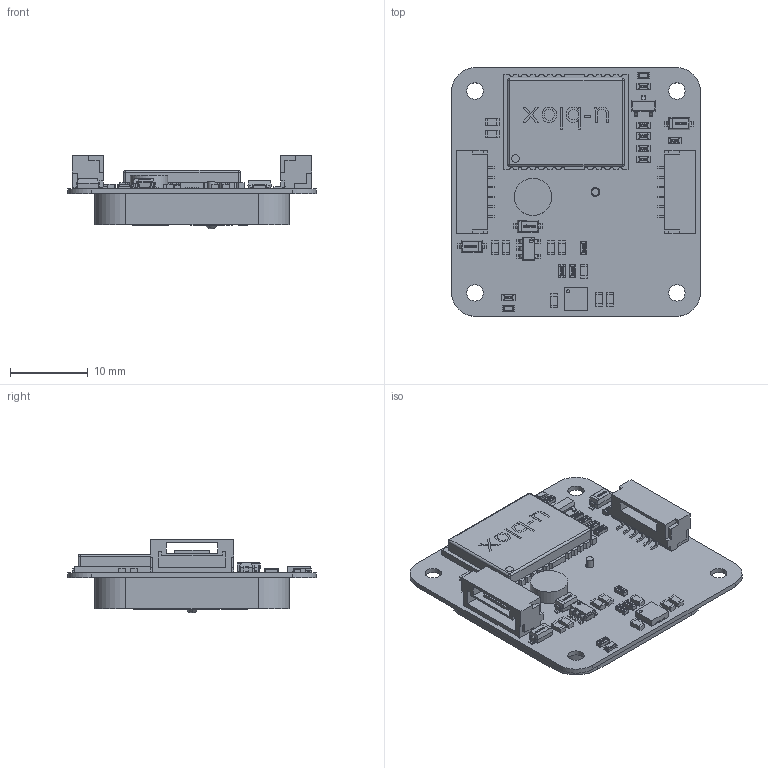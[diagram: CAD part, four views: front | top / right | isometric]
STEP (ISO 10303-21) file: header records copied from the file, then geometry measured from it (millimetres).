
FILE_DESCRIPTION(('Open CASCADE Model'),'2;1');
FILE_NAME('Open CASCADE Shape Model','2020-10-09T22:48:28',('Author'),( 'Open CASCADE'),'Open CASCADE STEP processor 6.8','Open CASCADE 6.8' ,'Unknown');
FILE_SCHEMA(('AUTOMOTIVE_DESIGN { 1 0 10303 214 1 1 1 1 }'));
Length unit declared in the file: millimetre
Products named in the file (78): PCB; Board; Open CASCADE STEP translator 6.8 2.1.1; R30; User_Library-RES_1609-0603; R29; R28; R27; C3; 6132837056; Extruded; 6132836576; 6132836176; C2; D3; SOD123; D2; C1; R25; R26; R24; LED-R; LED0603(R); GH6P-2; SM06B-GHS-TB_RGB14474460; GH6P-1; R21; R20; C-BKP; 6132838656; Cylinder; ANTENNA; CGGBP.25.4.A.02_RGB15987699; D1; LED-G; LED0603(G); Q1; SOT23; C28; C27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
Assembly tree (113 placements, depth 4):
  PCB
    Board
      Open CASCADE STEP translator 6.8 2.1.1
    R30
      User_Library-RES_1609-0603
    R29
      User_Library-RES_1609-0603
    R28
      User_Library-RES_1609-0603
    R27
      User_Library-RES_1609-0603
    C3
      6132837056
        Extruded
      6132836576
        Extruded
      6132836176
        Extruded
    C2
      6132837056
        Extruded
      6132836576
        Extruded
      6132836176
        Extruded
    D3
      SOD123
    D2
      SOD123
    C1
      6132837056
        Extruded
      6132836576
        Extruded
      6132836176
        Extruded
    R25
      User_Library-RES_1609-0603
    R26
      User_Library-RES_1609-0603
    R24
      User_Library-RES_1609-0603
    LED-R
      LED0603(R)
    GH6P-2
      SM06B-GHS-TB_RGB14474460
    GH6P-1
      SM06B-GHS-TB_RGB14474460
    R21
      User_Library-RES_1609-0603
    R20
      User_Library-RES_1609-0603
    C-BKP
      6132838656
        Cylinder
    ANTENNA
      CGGBP.25.4.A.02_RGB15987699
    D1
      SOD123
    LED-G
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Bounding box: 32 x 32 x 9.47 mm (x, y, z)
Volume: 3812.9 mm3; surface area: 5308.1 mm2
Topology: 102 solids, 102 shells, 2929 faces, 7667 edges, 5071 vertices
Faces by surface type: plane 1850, bspline 734, cylinder 325, sphere 18, revolution 2
Full cylindrical faces by diameter (mm): 1.1 x1, 2.1 x4, 4.8 x1
Entity records: 68557 total; most frequent: CARTESIAN_POINT 20866, ORIENTED_EDGE 8208, DIRECTION 6549, EDGE_CURVE 4104, LINE 2999, VECTOR 2999, VERTEX_POINT 2713, AXIS2_PLACEMENT_3D 1774
